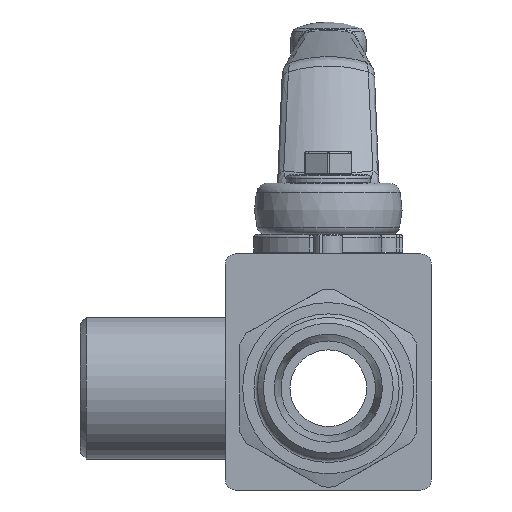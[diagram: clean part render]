
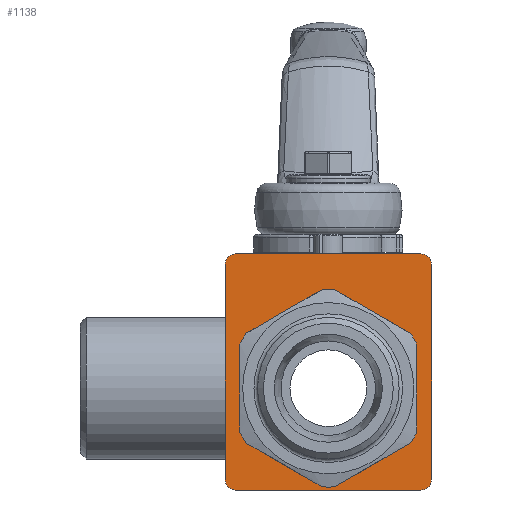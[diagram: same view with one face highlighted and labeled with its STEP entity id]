
A CAD part, front view. The second image highlights one B-rep face of the part: STEP entity #1138.
In plain terms, the highlighted planar face has unit normal (0, -1, 0).
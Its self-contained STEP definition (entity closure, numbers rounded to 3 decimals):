
#1138 = ADVANCED_FACE( '', ( #2290, #2291 ), #2292, .F. );
#2290 = FACE_BOUND( '', #4334, .T. );
#2291 = FACE_OUTER_BOUND( '', #4335, .T. );
#2292 = PLANE( '', #4336 );
#4334 = EDGE_LOOP( '', ( #7204 ) );
#4335 = EDGE_LOOP( '', ( #7205, #7206, #7207, #7208, #7209, #7210, #7211, #7212 ) );
#4336 = AXIS2_PLACEMENT_3D( '', #7213, #7214, #7215 );
#7204 = ORIENTED_EDGE( '', *, *, #8115, .F. );
#7205 = ORIENTED_EDGE( '', *, *, #8277, .T. );
#7206 = ORIENTED_EDGE( '', *, *, #8737, .T. );
#7207 = ORIENTED_EDGE( '', *, *, #7882, .T. );
#7208 = ORIENTED_EDGE( '', *, *, #8495, .T. );
#7209 = ORIENTED_EDGE( '', *, *, #8895, .T. );
#7210 = ORIENTED_EDGE( '', *, *, #8491, .T. );
#7211 = ORIENTED_EDGE( '', *, *, #8880, .T. );
#7212 = ORIENTED_EDGE( '', *, *, #8896, .T. );
#7213 = CARTESIAN_POINT( '', ( -17.5, -24.1, 22.75 ) );
#7214 = DIRECTION( '', ( 0., 1., 0. ) );
#7215 = DIRECTION( '', ( 0., 0., 1. ) );
#7882 = EDGE_CURVE( '', #9074, #9075, #9076, .T. );
#8115 = EDGE_CURVE( '', #9471, #9471, #9472, .T. );
#8277 = EDGE_CURVE( '', #9735, #9733, #9736, .T. );
#8491 = EDGE_CURVE( '', #10058, #10059, #10060, .F. );
#8495 = EDGE_CURVE( '', #9075, #10064, #10065, .F. );
#8737 = EDGE_CURVE( '', #9733, #9074, #10382, .F. );
#8880 = EDGE_CURVE( '', #10059, #10548, #10550, .T. );
#8895 = EDGE_CURVE( '', #10064, #10058, #10566, .T. );
#8896 = EDGE_CURVE( '', #10548, #9735, #10567, .F. );
#9074 = VERTEX_POINT( '', #10851 );
#9075 = VERTEX_POINT( '', #10852 );
#9076 = LINE( '', #10853, #10854 );
#9471 = VERTEX_POINT( '', #11629 );
#9472 = CIRCLE( '', #11630, 15. );
#9733 = VERTEX_POINT( '', #12104 );
#9735 = VERTEX_POINT( '', #12107 );
#9736 = LINE( '', #12108, #12109 );
#10058 = VERTEX_POINT( '', #12866 );
#10059 = VERTEX_POINT( '', #12867 );
#10060 = CIRCLE( '', #12868, 1.8 );
#10064 = VERTEX_POINT( '', #12874 );
#10065 = CIRCLE( '', #12875, 1.8 );
#10382 = CIRCLE( '', #13532, 1.8 );
#10548 = VERTEX_POINT( '', #13805 );
#10550 = LINE( '', #13808, #13809 );
#10566 = LINE( '', #13839, #13840 );
#10567 = CIRCLE( '', #13841, 1.8 );
#10851 = CARTESIAN_POINT( '', ( 17.5, -24.1, -15.45 ) );
#10852 = CARTESIAN_POINT( '', ( 17.5, -24.1, 20.95 ) );
#10853 = CARTESIAN_POINT( '', ( 17.5, -24.1, -17.25 ) );
#10854 = VECTOR( '', #14066, 1000. );
#11629 = CARTESIAN_POINT( '', ( 15., -24.1, 0. ) );
#11630 = AXIS2_PLACEMENT_3D( '', #14400, #14401, #14402 );
#12104 = CARTESIAN_POINT( '', ( 15.7, -24.1, -17.25 ) );
#12107 = CARTESIAN_POINT( '', ( -15.7, -24.1, -17.25 ) );
#12108 = CARTESIAN_POINT( '', ( -17.5, -24.1, -17.25 ) );
#12109 = VECTOR( '', #14640, 1000. );
#12866 = CARTESIAN_POINT( '', ( -15.7, -24.1, 22.75 ) );
#12867 = CARTESIAN_POINT( '', ( -17.5, -24.1, 20.95 ) );
#12868 = AXIS2_PLACEMENT_3D( '', #14923, #14924, #14925 );
#12874 = CARTESIAN_POINT( '', ( 15.7, -24.1, 22.75 ) );
#12875 = AXIS2_PLACEMENT_3D( '', #14928, #14929, #14930 );
#13532 = AXIS2_PLACEMENT_3D( '', #15217, #15218, #15219 );
#13805 = CARTESIAN_POINT( '', ( -17.5, -24.1, -15.45 ) );
#13808 = CARTESIAN_POINT( '', ( -17.5, -24.1, 22.75 ) );
#13809 = VECTOR( '', #15392, 1000. );
#13839 = CARTESIAN_POINT( '', ( 17.5, -24.1, 22.75 ) );
#13840 = VECTOR( '', #15405, 1000. );
#13841 = AXIS2_PLACEMENT_3D( '', #15406, #15407, #15408 );
#14066 = DIRECTION( '', ( 0., 0., 1. ) );
#14400 = CARTESIAN_POINT( '', ( 0., -24.1, 0. ) );
#14401 = DIRECTION( '', ( 0., -1., 0. ) );
#14402 = DIRECTION( '', ( 1., 0., 0. ) );
#14640 = DIRECTION( '', ( 1., 0., 0. ) );
#14923 = CARTESIAN_POINT( '', ( -15.7, -24.1, 20.95 ) );
#14924 = DIRECTION( '', ( 0., 1., 0. ) );
#14925 = DIRECTION( '', ( 0., 0., 1. ) );
#14928 = CARTESIAN_POINT( '', ( 15.7, -24.1, 20.95 ) );
#14929 = DIRECTION( '', ( 0., 1., 0. ) );
#14930 = DIRECTION( '', ( 0., 0., 1. ) );
#15217 = CARTESIAN_POINT( '', ( 15.7, -24.1, -15.45 ) );
#15218 = DIRECTION( '', ( 0., 1., 0. ) );
#15219 = DIRECTION( '', ( 0., 0., 1. ) );
#15392 = DIRECTION( '', ( 0., 0., -1. ) );
#15405 = DIRECTION( '', ( -1., 0., 0. ) );
#15406 = CARTESIAN_POINT( '', ( -15.7, -24.1, -15.45 ) );
#15407 = DIRECTION( '', ( 0., 1., 0. ) );
#15408 = DIRECTION( '', ( 0., 0., 1. ) );
